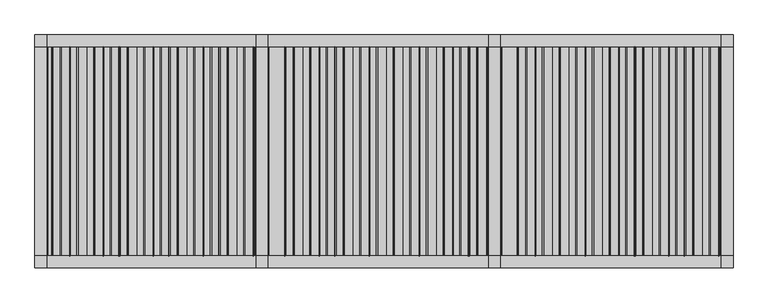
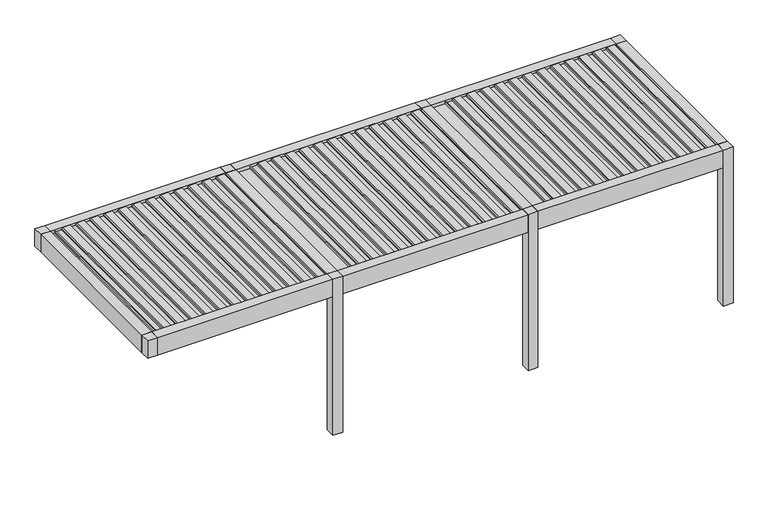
"""IFC4 building model written with IfcOpenShell, lengths in millimetres: proxy geometry, Renson_Amani_Patio_Cover : Renson_Amani_Patio_Cover."""

from ifc_helpers import new_model, si_unit, point, frame, frame_2d, origin, origin_with_axes, place, context, project, spatial, polyline, circle_curve, trimmed, segment, composite_curve, outline, extrude, source, transform, mapped, element, save


def generic_models_91610d27(model_context):
    return source(origin(), model_context, "Body", "SweptSolid", [
        extrude(outline(composite_curve([segment(polyline([(2483.35, 7073.7289238), (2511.01198, 7076.1490335), (2512.3970364, 7104.984284), (2531.8911096, 7101.5469529), (2526.6075693, 6991.549838)]), True, "CONTINUOUS"), segment(trimmed(circle_curve(frame_2d((2511.6248435, 6992.26951)), 15.0), [point((2526.6075693, 6991.549838))], [point((2514.2295662, 6977.4973937))], False, "CARTESIAN"), True, "CONTINUOUS"), segment(polyline([(2514.2295662, 6977.4973937), (2495.0, 6974.1067023), (2495.0, 6886.3709263), (2512.0788237, 6883.3594689), (2511.3450182, 6868.0824984), (2483.35, 6865.6332517), (2483.35, 7073.7289238)]), True, "CONTINUOUS")], self_intersect=False)), frame((0.0, -1350.0, 0.0), z_axis=(0.0, 1.0, 0.0), x_axis=(0.0, 0.0, 1.0)), (0.0, 0.0, 1.0), 2700.0),
        extrude(outline(composite_curve([segment(polyline([(2483.35, 6858.7132078), (2511.01198, 6861.1333174), (2512.3970364, 6889.9685679), (2531.8911096, 6886.5312368), (2526.6075693, 6776.534122)]), True, "CONTINUOUS"), segment(trimmed(circle_curve(frame_2d((2511.6248435, 6777.2537939)), 15.0), [point((2526.6075693, 6776.534122))], [point((2514.2295662, 6762.4816776))], False, "CARTESIAN"), True, "CONTINUOUS"), segment(polyline([(2514.2295662, 6762.4816776), (2495.0, 6759.0909863), (2495.0, 6671.3552102), (2512.0788237, 6668.3437528), (2511.3450182, 6653.0667824), (2483.35, 6650.6175356), (2483.35, 6858.7132078)]), True, "CONTINUOUS")], self_intersect=False)), frame((0.0, -1350.0, 0.0), z_axis=(0.0, 1.0, 0.0), x_axis=(0.0, 0.0, 1.0)), (0.0, 0.0, 1.0), 2700.0),
        extrude(outline(composite_curve([segment(polyline([(2483.35, 6643.6974917), (2511.01198, 6646.1176014), (2512.3970364, 6674.9528519), (2531.8911096, 6671.5155208), (2526.6075693, 6561.5184059)]), True, "CONTINUOUS"), segment(trimmed(circle_curve(frame_2d((2511.6248435, 6562.2380779)), 15.0), [point((2526.6075693, 6561.5184059))], [point((2514.2295662, 6547.4659616))], False, "CARTESIAN"), True, "CONTINUOUS"), segment(polyline([(2514.2295662, 6547.4659616), (2495.0, 6544.0752702), (2495.0, 6456.3394942), (2512.0788237, 6453.3280368), (2511.3450182, 6438.0510663), (2483.35, 6435.6018196), (2483.35, 6643.6974917)]), True, "CONTINUOUS")], self_intersect=False)), frame((0.0, -1350.0, 0.0), z_axis=(0.0, 1.0, 0.0), x_axis=(0.0, 0.0, 1.0)), (0.0, 0.0, 1.0), 2700.0),
        extrude(outline(composite_curve([segment(polyline([(2483.35, 6428.6817757), (2511.01198, 6431.1018854), (2512.3970364, 6459.9371358), (2531.8911096, 6456.4998047), (2526.6075693, 6346.5026899)]), True, "CONTINUOUS"), segment(trimmed(circle_curve(frame_2d((2511.6248435, 6347.2223618)), 15.0), [point((2526.6075693, 6346.5026899))], [point((2514.2295662, 6332.4502455))], False, "CARTESIAN"), True, "CONTINUOUS"), segment(polyline([(2514.2295662, 6332.4502455), (2495.0, 6329.0595542), (2495.0, 6241.3237782), (2512.0788237, 6238.3123207), (2511.3450182, 6223.0353503), (2483.35, 6220.5861035), (2483.35, 6428.6817757)]), True, "CONTINUOUS")], self_intersect=False)), frame((0.0, -1350.0, 0.0), z_axis=(0.0, 1.0, 0.0), x_axis=(0.0, 0.0, 1.0)), (0.0, 0.0, 1.0), 2700.0),
        extrude(outline(composite_curve([segment(polyline([(2483.35, 6213.6660597), (2511.01198, 6216.0861693), (2512.3970364, 6244.9214198), (2531.8911096, 6241.4840887), (2526.6075693, 6131.4869738)]), True, "CONTINUOUS"), segment(trimmed(circle_curve(frame_2d((2511.6248435, 6132.2066458)), 15.0), [point((2526.6075693, 6131.4869738))], [point((2514.2295662, 6117.4345295))], False, "CARTESIAN"), True, "CONTINUOUS"), segment(polyline([(2514.2295662, 6117.4345295), (2495.0, 6114.0438381), (2495.0, 6026.3080621), (2512.0788237, 6023.2966047), (2511.3450182, 6008.0196342), (2483.35, 6005.5703875), (2483.35, 6213.6660597)]), True, "CONTINUOUS")], self_intersect=False)), frame((0.0, -1350.0, 0.0), z_axis=(0.0, 1.0, 0.0), x_axis=(0.0, 0.0, 1.0)), (0.0, 0.0, 1.0), 2700.0),
        extrude(outline(composite_curve([segment(polyline([(2483.35, 5998.6503436), (2511.01198, 6001.0704533), (2512.3970364, 6029.9057037), (2531.8911096, 6026.4683726), (2526.6075693, 5916.4712578)]), True, "CONTINUOUS"), segment(trimmed(circle_curve(frame_2d((2511.6248435, 5917.1909297)), 15.0), [point((2526.6075693, 5916.4712578))], [point((2514.2295662, 5902.4188134))], False, "CARTESIAN"), True, "CONTINUOUS"), segment(polyline([(2514.2295662, 5902.4188134), (2495.0, 5899.0281221), (2495.0, 5811.2923461), (2512.0788237, 5808.2808886), (2511.3450182, 5793.0039182), (2483.35, 5790.5546714), (2483.35, 5998.6503436)]), True, "CONTINUOUS")], self_intersect=False)), frame((0.0, -1350.0, 0.0), z_axis=(0.0, 1.0, 0.0), x_axis=(0.0, 0.0, 1.0)), (0.0, 0.0, 1.0), 2700.0),
        extrude(outline(composite_curve([segment(polyline([(2483.35, 5783.6346276), (2511.01198, 5786.0547372), (2512.3970364, 5814.8899877), (2531.8911096, 5811.4526566), (2526.6075693, 5701.4555418)]), True, "CONTINUOUS"), segment(trimmed(circle_curve(frame_2d((2511.6248435, 5702.1752137)), 15.0), [point((2526.6075693, 5701.4555418))], [point((2514.2295662, 5687.4030974))], False, "CARTESIAN"), True, "CONTINUOUS"), segment(polyline([(2514.2295662, 5687.4030974), (2495.0, 5684.012406), (2495.0, 5596.27663), (2512.0788237, 5593.2651726), (2511.3450182, 5577.9882021), (2483.35, 5575.5389554), (2483.35, 5783.6346276)]), True, "CONTINUOUS")], self_intersect=False)), frame((0.0, -1350.0, 0.0), z_axis=(0.0, 1.0, 0.0), x_axis=(0.0, 0.0, 1.0)), (0.0, 0.0, 1.0), 2700.0),
        extrude(outline(composite_curve([segment(polyline([(2483.35, 5568.6189115), (2511.01198, 5571.0390212), (2512.3970364, 5599.8742716), (2531.8911096, 5596.4369406), (2526.6075693, 5486.4398257)]), True, "CONTINUOUS"), segment(trimmed(circle_curve(frame_2d((2511.6248435, 5487.1594976)), 15.0), [point((2526.6075693, 5486.4398257))], [point((2514.2295662, 5472.3873813))], False, "CARTESIAN"), True, "CONTINUOUS"), segment(polyline([(2514.2295662, 5472.3873813), (2495.0, 5468.99669), (2495.0, 5381.260914), (2512.0788237, 5378.2494566), (2511.3450182, 5362.9724861), (2483.35, 5360.5232394), (2483.35, 5568.6189115)]), True, "CONTINUOUS")], self_intersect=False)), frame((0.0, -1350.0, 0.0), z_axis=(0.0, 1.0, 0.0), x_axis=(0.0, 0.0, 1.0)), (0.0, 0.0, 1.0), 2700.0),
        extrude(outline(composite_curve([segment(polyline([(2483.35, 5353.6031955), (2511.01198, 5356.0233051), (2512.3970364, 5384.8585556), (2531.8911096, 5381.4212245), (2526.6075693, 5271.4241097)]), True, "CONTINUOUS"), segment(trimmed(circle_curve(frame_2d((2511.6248435, 5272.1437816)), 15.0), [point((2526.6075693, 5271.4241097))], [point((2514.2295662, 5257.3716653))], False, "CARTESIAN"), True, "CONTINUOUS"), segment(polyline([(2514.2295662, 5257.3716653), (2495.0, 5253.980974), (2495.0, 5166.2451979), (2512.0788237, 5163.2337405), (2511.3450182, 5147.95677), (2483.35, 5145.5075233), (2483.35, 5353.6031955)]), True, "CONTINUOUS")], self_intersect=False)), frame((0.0, -1350.0, 0.0), z_axis=(0.0, 1.0, 0.0), x_axis=(0.0, 0.0, 1.0)), (0.0, 0.0, 1.0), 2700.0),
        extrude(outline(composite_curve([segment(polyline([(2483.35, 5138.5874794), (2511.01198, 5141.0075891), (2512.3970364, 5169.8428395), (2531.8911096, 5166.4055085), (2526.6075693, 5056.4083936)]), True, "CONTINUOUS"), segment(trimmed(circle_curve(frame_2d((2511.6248435, 5057.1280655)), 15.0), [point((2526.6075693, 5056.4083936))], [point((2514.2295662, 5042.3559492))], False, "CARTESIAN"), True, "CONTINUOUS"), segment(polyline([(2514.2295662, 5042.3559492), (2495.0, 5038.9652579), (2495.0, 4951.2294819), (2512.0788237, 4948.2180245), (2511.3450182, 4932.941054), (2483.35, 4930.4918073), (2483.35, 5138.5874794)]), True, "CONTINUOUS")], self_intersect=False)), frame((0.0, -1350.0, 0.0), z_axis=(0.0, 1.0, 0.0), x_axis=(0.0, 0.0, 1.0)), (0.0, 0.0, 1.0), 2700.0),
        extrude(outline(composite_curve([segment(polyline([(2483.35, 7288.7446399), (2511.01198, 7291.1647495), (2512.3970364, 7320.0), (2531.8911096, 7316.5626689), (2526.6075693, 7206.5655541)]), True, "CONTINUOUS"), segment(trimmed(circle_curve(frame_2d((2511.6248435, 7207.285226)), 15.0), [point((2526.6075693, 7206.5655541))], [point((2514.2295662, 7192.5131097))], False, "CARTESIAN"), True, "CONTINUOUS"), segment(polyline([(2514.2295662, 7192.5131097), (2495.0, 7189.1224184), (2495.0, 7101.3866423), (2512.0788237, 7098.3751849), (2511.3450182, 7083.0982144), (2483.35, 7080.6489677), (2483.35, 7288.7446399)]), True, "CONTINUOUS")], self_intersect=False)), frame((0.0, -1350.0, 0.0), z_axis=(0.0, 1.0, 0.0), x_axis=(0.0, 0.0, 1.0)), (0.0, 0.0, 1.0), 2700.0),
        extrude(outline(composite_curve([segment(polyline([(2483.35, 4923.5717634), (2511.01198, 4925.991873), (2512.3970364, 4954.8271235), (2531.8911096, 4951.3897924), (2526.6075693, 4841.3926776)]), True, "CONTINUOUS"), segment(trimmed(circle_curve(frame_2d((2511.6248435, 4842.1123495)), 15.0), [point((2526.6075693, 4841.3926776))], [point((2514.2295662, 4827.3402332))], False, "CARTESIAN"), True, "CONTINUOUS"), segment(polyline([(2514.2295662, 4827.3402332), (2495.0, 4823.9495419), (2495.0, 4736.2137658), (2512.0788237, 4733.2023084), (2511.3450182, 4717.9253379), (2483.35, 4715.4760912), (2483.35, 4923.5717634)]), True, "CONTINUOUS")], self_intersect=False)), frame((0.0, -1350.0, 0.0), z_axis=(0.0, 1.0, 0.0), x_axis=(0.0, 0.0, 1.0)), (0.0, 0.0, 1.0), 2700.0),
        extrude(outline(composite_curve([segment(polyline([(2483.35, 4073.7289238), (2511.01198, 4076.1490335), (2512.3970364, 4104.984284), (2531.8911096, 4101.5469529), (2526.6075693, 3991.549838)]), True, "CONTINUOUS"), segment(trimmed(circle_curve(frame_2d((2511.6248435, 3992.26951)), 15.0), [point((2526.6075693, 3991.549838))], [point((2514.2295662, 3977.4973937))], False, "CARTESIAN"), True, "CONTINUOUS"), segment(polyline([(2514.2295662, 3977.4973937), (2495.0, 3974.1067023), (2495.0, 3886.3709263), (2512.0788237, 3883.3594689), (2511.3450182, 3868.0824984), (2483.35, 3865.6332517), (2483.35, 4073.7289238)]), True, "CONTINUOUS")], self_intersect=False)), frame((0.0, -1350.0, 0.0), z_axis=(0.0, 1.0, 0.0), x_axis=(0.0, 0.0, 1.0)), (0.0, 0.0, 1.0), 2700.0),
        extrude(outline(composite_curve([segment(polyline([(2483.35, 3858.7132078), (2511.01198, 3861.1333174), (2512.3970364, 3889.9685679), (2531.8911096, 3886.5312368), (2526.6075693, 3776.534122)]), True, "CONTINUOUS"), segment(trimmed(circle_curve(frame_2d((2511.6248435, 3777.2537939)), 15.0), [point((2526.6075693, 3776.534122))], [point((2514.2295662, 3762.4816776))], False, "CARTESIAN"), True, "CONTINUOUS"), segment(polyline([(2514.2295662, 3762.4816776), (2495.0, 3759.0909863), (2495.0, 3671.3552102), (2512.0788237, 3668.3437528), (2511.3450182, 3653.0667824), (2483.35, 3650.6175356), (2483.35, 3858.7132078)]), True, "CONTINUOUS")], self_intersect=False)), frame((0.0, -1350.0, 0.0), z_axis=(0.0, 1.0, 0.0), x_axis=(0.0, 0.0, 1.0)), (0.0, 0.0, 1.0), 2700.0),
        extrude(outline(composite_curve([segment(polyline([(2483.35, 3643.6974917), (2511.01198, 3646.1176014), (2512.3970364, 3674.9528519), (2531.8911096, 3671.5155208), (2526.6075693, 3561.5184059)]), True, "CONTINUOUS"), segment(trimmed(circle_curve(frame_2d((2511.6248435, 3562.2380779)), 15.0), [point((2526.6075693, 3561.5184059))], [point((2514.2295662, 3547.4659616))], False, "CARTESIAN"), True, "CONTINUOUS"), segment(polyline([(2514.2295662, 3547.4659616), (2495.0, 3544.0752702), (2495.0, 3456.3394942), (2512.0788237, 3453.3280368), (2511.3450182, 3438.0510663), (2483.35, 3435.6018196), (2483.35, 3643.6974917)]), True, "CONTINUOUS")], self_intersect=False)), frame((0.0, -1350.0, 0.0), z_axis=(0.0, 1.0, 0.0), x_axis=(0.0, 0.0, 1.0)), (0.0, 0.0, 1.0), 2700.0),
        extrude(outline(composite_curve([segment(polyline([(2483.35, 3428.6817757), (2511.01198, 3431.1018854), (2512.3970364, 3459.9371358), (2531.8911096, 3456.4998047), (2526.6075693, 3346.5026899)]), True, "CONTINUOUS"), segment(trimmed(circle_curve(frame_2d((2511.6248435, 3347.2223618)), 15.0), [point((2526.6075693, 3346.5026899))], [point((2514.2295662, 3332.4502455))], False, "CARTESIAN"), True, "CONTINUOUS"), segment(polyline([(2514.2295662, 3332.4502455), (2495.0, 3329.0595542), (2495.0, 3241.3237782), (2512.0788237, 3238.3123207), (2511.3450182, 3223.0353503), (2483.35, 3220.5861035), (2483.35, 3428.6817757)]), True, "CONTINUOUS")], self_intersect=False)), frame((0.0, -1350.0, 0.0), z_axis=(0.0, 1.0, 0.0), x_axis=(0.0, 0.0, 1.0)), (0.0, 0.0, 1.0), 2700.0),
        extrude(outline(composite_curve([segment(polyline([(2483.35, 3213.6660597), (2511.01198, 3216.0861693), (2512.3970364, 3244.9214198), (2531.8911096, 3241.4840887), (2526.6075693, 3131.4869738)]), True, "CONTINUOUS"), segment(trimmed(circle_curve(frame_2d((2511.6248435, 3132.2066458)), 15.0), [point((2526.6075693, 3131.4869738))], [point((2514.2295662, 3117.4345295))], False, "CARTESIAN"), True, "CONTINUOUS"), segment(polyline([(2514.2295662, 3117.4345295), (2495.0, 3114.0438381), (2495.0, 3026.3080621), (2512.0788237, 3023.2966047), (2511.3450182, 3008.0196342), (2483.35, 3005.5703875), (2483.35, 3213.6660597)]), True, "CONTINUOUS")], self_intersect=False)), frame((0.0, -1350.0, 0.0), z_axis=(0.0, 1.0, 0.0), x_axis=(0.0, 0.0, 1.0)), (0.0, 0.0, 1.0), 2700.0),
        extrude(outline(composite_curve([segment(polyline([(2483.35, 2998.6503436), (2511.01198, 3001.0704533), (2512.3970364, 3029.9057037), (2531.8911096, 3026.4683726), (2526.6075693, 2916.4712578)]), True, "CONTINUOUS"), segment(trimmed(circle_curve(frame_2d((2511.6248435, 2917.1909297)), 15.0), [point((2526.6075693, 2916.4712578))], [point((2514.2295662, 2902.4188134))], False, "CARTESIAN"), True, "CONTINUOUS"), segment(polyline([(2514.2295662, 2902.4188134), (2495.0, 2899.0281221), (2495.0, 2811.2923461), (2512.0788237, 2808.2808886), (2511.3450182, 2793.0039182), (2483.35, 2790.5546714), (2483.35, 2998.6503436)]), True, "CONTINUOUS")], self_intersect=False)), frame((0.0, -1350.0, 0.0), z_axis=(0.0, 1.0, 0.0), x_axis=(0.0, 0.0, 1.0)), (0.0, 0.0, 1.0), 2700.0),
        extrude(outline(composite_curve([segment(polyline([(2483.35, 2783.6346276), (2511.01198, 2786.0547372), (2512.3970364, 2814.8899877), (2531.8911096, 2811.4526566), (2526.6075693, 2701.4555418)]), True, "CONTINUOUS"), segment(trimmed(circle_curve(frame_2d((2511.6248435, 2702.1752137)), 15.0), [point((2526.6075693, 2701.4555418))], [point((2514.2295662, 2687.4030974))], False, "CARTESIAN"), True, "CONTINUOUS"), segment(polyline([(2514.2295662, 2687.4030974), (2495.0, 2684.012406), (2495.0, 2596.27663), (2512.0788237, 2593.2651726), (2511.3450182, 2577.9882021), (2483.35, 2575.5389554), (2483.35, 2783.6346276)]), True, "CONTINUOUS")], self_intersect=False)), frame((0.0, -1350.0, 0.0), z_axis=(0.0, 1.0, 0.0), x_axis=(0.0, 0.0, 1.0)), (0.0, 0.0, 1.0), 2700.0),
        extrude(outline(composite_curve([segment(polyline([(2483.35, 2568.6189115), (2511.01198, 2571.0390212), (2512.3970364, 2599.8742716), (2531.8911096, 2596.4369406), (2526.6075693, 2486.4398257)]), True, "CONTINUOUS"), segment(trimmed(circle_curve(frame_2d((2511.6248435, 2487.1594976)), 15.0), [point((2526.6075693, 2486.4398257))], [point((2514.2295662, 2472.3873813))], False, "CARTESIAN"), True, "CONTINUOUS"), segment(polyline([(2514.2295662, 2472.3873813), (2495.0, 2468.99669), (2495.0, 2381.260914), (2512.0788237, 2378.2494566), (2511.3450182, 2362.9724861), (2483.35, 2360.5232394), (2483.35, 2568.6189115)]), True, "CONTINUOUS")], self_intersect=False)), frame((0.0, -1350.0, 0.0), z_axis=(0.0, 1.0, 0.0), x_axis=(0.0, 0.0, 1.0)), (0.0, 0.0, 1.0), 2700.0),
        extrude(outline(composite_curve([segment(polyline([(2483.35, 2353.6031955), (2511.01198, 2356.0233051), (2512.3970364, 2384.8585556), (2531.8911096, 2381.4212245), (2526.6075693, 2271.4241097)]), True, "CONTINUOUS"), segment(trimmed(circle_curve(frame_2d((2511.6248435, 2272.1437816)), 15.0), [point((2526.6075693, 2271.4241097))], [point((2514.2295662, 2257.3716653))], False, "CARTESIAN"), True, "CONTINUOUS"), segment(polyline([(2514.2295662, 2257.3716653), (2495.0, 2253.980974), (2495.0, 2166.2451979), (2512.0788237, 2163.2337405), (2511.3450182, 2147.95677), (2483.35, 2145.5075233), (2483.35, 2353.6031955)]), True, "CONTINUOUS")], self_intersect=False)), frame((0.0, -1350.0, 0.0), z_axis=(0.0, 1.0, 0.0), x_axis=(0.0, 0.0, 1.0)), (0.0, 0.0, 1.0), 2700.0),
        extrude(outline(composite_curve([segment(polyline([(2483.35, 2138.5874794), (2511.01198, 2141.0075891), (2512.3970364, 2169.8428395), (2531.8911096, 2166.4055085), (2526.6075693, 2056.4083936)]), True, "CONTINUOUS"), segment(trimmed(circle_curve(frame_2d((2511.6248435, 2057.1280655)), 15.0), [point((2526.6075693, 2056.4083936))], [point((2514.2295662, 2042.3559492))], False, "CARTESIAN"), True, "CONTINUOUS"), segment(polyline([(2514.2295662, 2042.3559492), (2495.0, 2038.9652579), (2495.0, 1951.2294819), (2512.0788237, 1948.2180245), (2511.3450182, 1932.941054), (2483.35, 1930.4918073), (2483.35, 2138.5874794)]), True, "CONTINUOUS")], self_intersect=False)), frame((0.0, -1350.0, 0.0), z_axis=(0.0, 1.0, 0.0), x_axis=(0.0, 0.0, 1.0)), (0.0, 0.0, 1.0), 2700.0),
        extrude(outline(composite_curve([segment(polyline([(2483.35, 4288.7446399), (2511.01198, 4291.1647495), (2512.3970364, 4320.0), (2531.8911096, 4316.5626689), (2526.6075693, 4206.5655541)]), True, "CONTINUOUS"), segment(trimmed(circle_curve(frame_2d((2511.6248435, 4207.285226)), 15.0), [point((2526.6075693, 4206.5655541))], [point((2514.2295662, 4192.5131097))], False, "CARTESIAN"), True, "CONTINUOUS"), segment(polyline([(2514.2295662, 4192.5131097), (2495.0, 4189.1224184), (2495.0, 4101.3866423), (2512.0788237, 4098.3751849), (2511.3450182, 4083.0982144), (2483.35, 4080.6489677), (2483.35, 4288.7446399)]), True, "CONTINUOUS")], self_intersect=False)), frame((0.0, -1350.0, 0.0), z_axis=(0.0, 1.0, 0.0), x_axis=(0.0, 0.0, 1.0)), (0.0, 0.0, 1.0), 2700.0),
        extrude(outline(composite_curve([segment(polyline([(2483.35, 1923.5717634), (2511.01198, 1925.991873), (2512.3970364, 1954.8271235), (2531.8911096, 1951.3897924), (2526.6075693, 1841.3926776)]), True, "CONTINUOUS"), segment(trimmed(circle_curve(frame_2d((2511.6248435, 1842.1123495)), 15.0), [point((2526.6075693, 1841.3926776))], [point((2514.2295662, 1827.3402332))], False, "CARTESIAN"), True, "CONTINUOUS"), segment(polyline([(2514.2295662, 1827.3402332), (2495.0, 1823.9495419), (2495.0, 1736.2137658), (2512.0788237, 1733.2023084), (2511.3450182, 1717.9253379), (2483.35, 1715.4760912), (2483.35, 1923.5717634)]), True, "CONTINUOUS")], self_intersect=False)), frame((0.0, -1350.0, 0.0), z_axis=(0.0, 1.0, 0.0), x_axis=(0.0, 0.0, 1.0)), (0.0, 0.0, 1.0), 2700.0),
        extrude(outline(composite_curve([segment(polyline([(2483.35, 1073.7289238), (2511.01198, 1076.1490335), (2512.3970364, 1104.984284), (2531.8911096, 1101.5469529), (2526.6075693, 991.549838)]), True, "CONTINUOUS"), segment(trimmed(circle_curve(frame_2d((2511.6248435, 992.26951)), 15.0), [point((2526.6075693, 991.549838))], [point((2514.2295662, 977.4973937))], False, "CARTESIAN"), True, "CONTINUOUS"), segment(polyline([(2514.2295662, 977.4973937), (2495.0, 974.1067023), (2495.0, 886.3709263), (2512.0788237, 883.3594689), (2511.3450182, 868.0824984), (2483.35, 865.6332517), (2483.35, 1073.7289238)]), True, "CONTINUOUS")], self_intersect=False)), frame((0.0, -1350.0, 0.0), z_axis=(0.0, 1.0, 0.0), x_axis=(0.0, 0.0, 1.0)), (0.0, 0.0, 1.0), 2700.0),
        extrude(outline(composite_curve([segment(polyline([(2483.35, 858.7132078), (2511.01198, 861.1333174), (2512.3970364, 889.9685679), (2531.8911096, 886.5312368), (2526.6075693, 776.534122)]), True, "CONTINUOUS"), segment(trimmed(circle_curve(frame_2d((2511.6248435, 777.2537939)), 15.0), [point((2526.6075693, 776.534122))], [point((2514.2295662, 762.4816776))], False, "CARTESIAN"), True, "CONTINUOUS"), segment(polyline([(2514.2295662, 762.4816776), (2495.0, 759.0909863), (2495.0, 671.3552102), (2512.0788237, 668.3437528), (2511.3450182, 653.0667824), (2483.35, 650.6175356), (2483.35, 858.7132078)]), True, "CONTINUOUS")], self_intersect=False)), frame((0.0, -1350.0, 0.0), z_axis=(0.0, 1.0, 0.0), x_axis=(0.0, 0.0, 1.0)), (0.0, 0.0, 1.0), 2700.0),
        extrude(outline(composite_curve([segment(polyline([(2483.35, 643.6974917), (2511.01198, 646.1176014), (2512.3970364, 674.9528519), (2531.8911096, 671.5155208), (2526.6075693, 561.5184059)]), True, "CONTINUOUS"), segment(trimmed(circle_curve(frame_2d((2511.6248435, 562.2380779)), 15.0), [point((2526.6075693, 561.5184059))], [point((2514.2295662, 547.4659616))], False, "CARTESIAN"), True, "CONTINUOUS"), segment(polyline([(2514.2295662, 547.4659616), (2495.0, 544.0752702), (2495.0, 456.3394942), (2512.0788237, 453.3280368), (2511.3450182, 438.0510663), (2483.35, 435.6018196), (2483.35, 643.6974917)]), True, "CONTINUOUS")], self_intersect=False)), frame((0.0, -1350.0, 0.0), z_axis=(0.0, 1.0, 0.0), x_axis=(0.0, 0.0, 1.0)), (0.0, 0.0, 1.0), 2700.0),
        extrude(outline(composite_curve([segment(polyline([(2483.35, 428.6817757), (2511.01198, 431.1018854), (2512.3970364, 459.9371358), (2531.8911096, 456.4998047), (2526.6075693, 346.5026899)]), True, "CONTINUOUS"), segment(trimmed(circle_curve(frame_2d((2511.6248435, 347.2223618)), 15.0), [point((2526.6075693, 346.5026899))], [point((2514.2295662, 332.4502455))], False, "CARTESIAN"), True, "CONTINUOUS"), segment(polyline([(2514.2295662, 332.4502455), (2495.0, 329.0595542), (2495.0, 241.3237782), (2512.0788237, 238.3123207), (2511.3450182, 223.0353503), (2483.35, 220.5861035), (2483.35, 428.6817757)]), True, "CONTINUOUS")], self_intersect=False)), frame((0.0, -1350.0, 0.0), z_axis=(0.0, 1.0, 0.0), x_axis=(0.0, 0.0, 1.0)), (0.0, 0.0, 1.0), 2700.0),
        extrude(outline(composite_curve([segment(polyline([(2483.35, 213.6660597), (2511.01198, 216.0861693), (2512.3970364, 244.9214198), (2531.8911096, 241.4840887), (2526.6075693, 131.4869738)]), True, "CONTINUOUS"), segment(trimmed(circle_curve(frame_2d((2511.6248435, 132.2066458)), 15.0), [point((2526.6075693, 131.4869738))], [point((2514.2295662, 117.4345295))], False, "CARTESIAN"), True, "CONTINUOUS"), segment(polyline([(2514.2295662, 117.4345295), (2495.0, 114.0438381), (2495.0, 26.3080621), (2512.0788237, 23.2966047), (2511.3450182, 8.0196342), (2483.35, 5.5703875), (2483.35, 213.6660597)]), True, "CONTINUOUS")], self_intersect=False)), frame((0.0, -1350.0, 0.0), z_axis=(0.0, 1.0, 0.0), x_axis=(0.0, 0.0, 1.0)), (0.0, 0.0, 1.0), 2700.0),
        extrude(outline(composite_curve([segment(polyline([(2483.35, -1.3496564), (2511.01198, 1.0704533), (2512.3970364, 29.9057037), (2531.8911096, 26.4683726), (2526.6075693, -83.5287422)]), True, "CONTINUOUS"), segment(trimmed(circle_curve(frame_2d((2511.6248435, -82.8090703)), 15.0), [point((2526.6075693, -83.5287422))], [point((2514.2295662, -97.5811866))], False, "CARTESIAN"), True, "CONTINUOUS"), segment(polyline([(2514.2295662, -97.5811866), (2495.0, -100.9718779), (2495.0, -188.7076539), (2512.0788237, -191.7191114), (2511.3450182, -206.9960818), (2483.35, -209.4453286), (2483.35, -1.3496564)]), True, "CONTINUOUS")], self_intersect=False)), frame((0.0, -1350.0, 0.0), z_axis=(0.0, 1.0, 0.0), x_axis=(0.0, 0.0, 1.0)), (0.0, 0.0, 1.0), 2700.0),
        extrude(outline(composite_curve([segment(polyline([(2483.35, -216.3653724), (2511.01198, -213.9452628), (2512.3970364, -185.1100123), (2531.8911096, -188.5473434), (2526.6075693, -298.5444582)]), True, "CONTINUOUS"), segment(trimmed(circle_curve(frame_2d((2511.6248435, -297.8247863)), 15.0), [point((2526.6075693, -298.5444582))], [point((2514.2295662, -312.5969026))], False, "CARTESIAN"), True, "CONTINUOUS"), segment(polyline([(2514.2295662, -312.5969026), (2495.0, -315.987594), (2495.0, -403.72337), (2512.0788237, -406.7348274), (2511.3450182, -422.0117979), (2483.35, -424.4610446), (2483.35, -216.3653724)]), True, "CONTINUOUS")], self_intersect=False)), frame((0.0, -1350.0, 0.0), z_axis=(0.0, 1.0, 0.0), x_axis=(0.0, 0.0, 1.0)), (0.0, 0.0, 1.0), 2700.0),
        extrude(outline(composite_curve([segment(polyline([(2483.35, -431.3810885), (2511.01198, -428.9609788), (2512.3970364, -400.1257284), (2531.8911096, -403.5630594), (2526.6075693, -513.5601743)]), True, "CONTINUOUS"), segment(trimmed(circle_curve(frame_2d((2511.6248435, -512.8405024)), 15.0), [point((2526.6075693, -513.5601743))], [point((2514.2295662, -527.6126187))], False, "CARTESIAN"), True, "CONTINUOUS"), segment(polyline([(2514.2295662, -527.6126187), (2495.0, -531.00331), (2495.0, -618.739086), (2512.0788237, -621.7505434), (2511.3450182, -637.0275139), (2483.35, -639.4767606), (2483.35, -431.3810885)]), True, "CONTINUOUS")], self_intersect=False)), frame((0.0, -1350.0, 0.0), z_axis=(0.0, 1.0, 0.0), x_axis=(0.0, 0.0, 1.0)), (0.0, 0.0, 1.0), 2700.0),
        extrude(outline(composite_curve([segment(polyline([(2483.35, -646.3968045), (2511.01198, -643.9766949), (2512.3970364, -615.1414444), (2531.8911096, -618.5787755), (2526.6075693, -728.5758903)]), True, "CONTINUOUS"), segment(trimmed(circle_curve(frame_2d((2511.6248435, -727.8562184)), 15.0), [point((2526.6075693, -728.5758903))], [point((2514.2295662, -742.6283347))], False, "CARTESIAN"), True, "CONTINUOUS"), segment(polyline([(2514.2295662, -742.6283347), (2495.0, -746.019026), (2495.0, -833.7548021), (2512.0788237, -836.7662595), (2511.3450182, -852.04323), (2483.35, -854.4924767), (2483.35, -646.3968045)]), True, "CONTINUOUS")], self_intersect=False)), frame((0.0, -1350.0, 0.0), z_axis=(0.0, 1.0, 0.0), x_axis=(0.0, 0.0, 1.0)), (0.0, 0.0, 1.0), 2700.0),
        extrude(outline(composite_curve([segment(polyline([(2483.35, -861.4125206), (2511.01198, -858.9924109), (2512.3970364, -830.1571605), (2531.8911096, -833.5944915), (2526.6075693, -943.5916064)]), True, "CONTINUOUS"), segment(trimmed(circle_curve(frame_2d((2511.6248435, -942.8719345)), 15.0), [point((2526.6075693, -943.5916064))], [point((2514.2295662, -957.6440508))], False, "CARTESIAN"), True, "CONTINUOUS"), segment(polyline([(2514.2295662, -957.6440508), (2495.0, -961.0347421), (2495.0, -1048.7705181), (2512.0788237, -1051.7819755), (2511.3450182, -1067.058946), (2483.35, -1069.5081927), (2483.35, -861.4125206)]), True, "CONTINUOUS")], self_intersect=False)), frame((0.0, -1350.0, 0.0), z_axis=(0.0, 1.0, 0.0), x_axis=(0.0, 0.0, 1.0)), (0.0, 0.0, 1.0), 2700.0),
        extrude(outline(composite_curve([segment(polyline([(2483.35, 1288.7446399), (2511.01198, 1291.1647495), (2512.3970364, 1320.0), (2531.8911096, 1316.5626689), (2526.6075693, 1206.5655541)]), True, "CONTINUOUS"), segment(trimmed(circle_curve(frame_2d((2511.6248435, 1207.285226)), 15.0), [point((2526.6075693, 1206.5655541))], [point((2514.2295662, 1192.5131097))], False, "CARTESIAN"), True, "CONTINUOUS"), segment(polyline([(2514.2295662, 1192.5131097), (2495.0, 1189.1224184), (2495.0, 1101.3866423), (2512.0788237, 1098.3751849), (2511.3450182, 1083.0982144), (2483.35, 1080.6489677), (2483.35, 1288.7446399)]), True, "CONTINUOUS")], self_intersect=False)), frame((0.0, -1350.0, 0.0), z_axis=(0.0, 1.0, 0.0), x_axis=(0.0, 0.0, 1.0)), (0.0, 0.0, 1.0), 2700.0),
        extrude(outline(composite_curve([segment(polyline([(2483.35, -1076.4282366), (2511.01198, -1074.008127), (2512.3970364, -1045.1728765), (2531.8911096, -1048.6102076), (2526.6075693, -1158.6073224)]), True, "CONTINUOUS"), segment(trimmed(circle_curve(frame_2d((2511.6248435, -1157.8876505)), 15.0), [point((2526.6075693, -1158.6073224))], [point((2514.2295662, -1172.6597668))], False, "CARTESIAN"), True, "CONTINUOUS"), segment(polyline([(2514.2295662, -1172.6597668), (2495.0, -1176.0504581), (2495.0, -1263.7862342), (2512.0788237, -1266.7976916), (2511.3450182, -1282.0746621), (2483.35, -1284.5239088), (2483.35, -1076.4282366)]), True, "CONTINUOUS")], self_intersect=False)), frame((0.0, -1350.0, 0.0), z_axis=(0.0, 1.0, 0.0), x_axis=(0.0, 0.0, 1.0)), (0.0, 0.0, 1.0), 2700.0),
        extrude(outline(polyline([(7500.0, -1350.0), (7500.0, -1500.0), (7350.0, -1500.0), (7350.0, -1350.0), (7500.0, -1350.0)])), origin_with_axes(), (0.0, 0.0, 1.0), 2535.0),
        extrude(outline(polyline([(7500.0, 1500.0), (7500.0, 1350.0), (7350.0, 1350.0), (7350.0, 1500.0), (7500.0, 1500.0)])), frame((0.0, 0.0, 2250.0), z_axis=(0.0, 0.0, 1.0), x_axis=(1.0, 0.0, 0.0)), (0.0, 0.0, 1.0), 285.0),
        extrude(outline(polyline([(4500.0, 1350.0), (4350.0, 1350.0), (4350.0, 1500.0), (4500.0, 1500.0), (4500.0, 1350.0)])), frame((0.0, 0.0, 2250.0), z_axis=(0.0, 0.0, 1.0), x_axis=(1.0, 0.0, 0.0)), (0.0, 0.0, 1.0), 285.0),
        extrude(outline(polyline([(1500.0, 1500.0), (1500.0, 1350.0), (1350.0, 1350.0), (1350.0, 1500.0), (1500.0, 1500.0)])), frame((0.0, 0.0, 2250.0), z_axis=(0.0, 0.0, 1.0), x_axis=(1.0, 0.0, 0.0)), (0.0, 0.0, 1.0), 285.0),
        extrude(outline(polyline([(-1350.0, 1500.0), (-1350.0, 1350.0), (-1500.0, 1350.0), (-1500.0, 1500.0), (-1350.0, 1500.0)])), frame((0.0, 0.0, 2250.0), z_axis=(0.0, 0.0, 1.0), x_axis=(1.0, 0.0, 0.0)), (0.0, 0.0, 1.0), 285.0),
        extrude(outline(polyline([(-1350.0, -1500.0), (-1500.0, -1500.0), (-1500.0, -1350.0), (-1350.0, -1350.0), (-1350.0, -1500.0)])), frame((0.0, 0.0, 2250.0), z_axis=(0.0, 0.0, 1.0), x_axis=(1.0, 0.0, 0.0)), (0.0, 0.0, 1.0), 285.0),
        extrude(outline(polyline([(4500.0, -1350.0), (4500.0, -1500.0), (4350.0, -1500.0), (4350.0, -1350.0), (4500.0, -1350.0)])), origin_with_axes(), (0.0, 0.0, 1.0), 2535.0),
        extrude(outline(polyline([(1500.0, -1350.0), (1500.0, -1500.0), (1350.0, -1500.0), (1350.0, -1350.0), (1500.0, -1350.0)])), origin_with_axes(), (0.0, 0.0, 1.0), 2535.0),
        extrude(outline(polyline([(2466.6559373, 4500.0), (2466.6559373, 4710.0), (2480.6555802, 4713.7512887), (2480.6555802, 4520.4059055), (2496.400763, 4505.0), (2504.2449277, 4505.0), (2504.6823598, 4500.0), (2466.6559373, 4500.0)])), frame((0.0, -1350.0, 0.0), z_axis=(0.0, 1.0, 0.0), x_axis=(0.0, 0.0, 1.0)), (0.0, 0.0, 1.0), 2700.0),
        extrude(outline(polyline([(-1350.0, 2535.0), (-1350.0, 2322.0), (-1280.0000001, 2322.0), (-1280.0000001, 2250.0), (-1500.0, 2250.0), (-1500.0, 2535.0), (-1350.0, 2535.0)])), frame((4500.0, 0.0, 0.0), z_axis=(1.0, 0.0, 0.0), x_axis=(0.0, 1.0, 0.0)), (0.0, 0.0, 1.0), 2850.0),
        extrude(outline(polyline([(1500.0, 2250.0), (1280.0000001, 2250.0), (1280.0000001, 2322.0), (1350.0, 2322.0), (1350.0, 2535.0), (1500.0, 2535.0), (1500.0, 2250.0)])), frame((4500.0, 0.0, 0.0), z_axis=(1.0, 0.0, 0.0), x_axis=(0.0, 1.0, 0.0)), (0.0, 0.0, 1.0), 2850.0),
        extrude(outline(polyline([(2535.0, 7500.0), (2535.0, 7350.0), (2504.6823598, 7350.0), (2504.2449277, 7345.0), (2496.400763, 7345.0), (2480.6555802, 7329.2544156), (2480.6555802, 7319.9090324), (2466.6559373, 7323.6603211), (2466.6559373, 7350.0), (2250.0, 7350.0), (2250.0, 7500.0), (2535.0, 7500.0)])), frame((0.0, -1350.0, 0.0), z_axis=(0.0, 1.0, 0.0), x_axis=(0.0, 0.0, 1.0)), (0.0, 0.0, 1.0), 2700.0),
        extrude(outline(polyline([(2466.6559373, 1500.0), (2466.6559373, 1710.0), (2480.6555802, 1713.7512887), (2480.6555802, 1520.4059055), (2496.400763, 1505.0), (2504.2449277, 1505.0), (2504.6823598, 1500.0), (2466.6559373, 1500.0)])), frame((0.0, -1350.0, 0.0), z_axis=(0.0, 1.0, 0.0), x_axis=(0.0, 0.0, 1.0)), (0.0, 0.0, 1.0), 2700.0),
        extrude(outline(polyline([(-1350.0, 2535.0), (-1350.0, 2322.0), (-1280.0000001, 2322.0), (-1280.0000001, 2250.0), (-1500.0, 2250.0), (-1500.0, 2535.0), (-1350.0, 2535.0)])), frame((1500.0, 0.0, 0.0), z_axis=(1.0, 0.0, 0.0), x_axis=(0.0, 1.0, 0.0)), (0.0, 0.0, 1.0), 2850.0),
        extrude(outline(polyline([(1500.0, 2250.0), (1280.0000001, 2250.0), (1280.0000001, 2322.0), (1350.0, 2322.0), (1350.0, 2535.0), (1500.0, 2535.0), (1500.0, 2250.0)])), frame((1500.0, 0.0, 0.0), z_axis=(1.0, 0.0, 0.0), x_axis=(0.0, 1.0, 0.0)), (0.0, 0.0, 1.0), 2850.0),
        extrude(outline(polyline([(2535.0, 4500.0), (2535.0, 4350.0), (2504.6823598, 4350.0), (2504.2449277, 4345.0), (2496.400763, 4345.0), (2480.6555802, 4329.2544156), (2480.6555802, 4319.9090324), (2466.6559373, 4323.6603211), (2466.6559373, 4350.0), (2250.0, 4350.0), (2250.0, 4500.0), (2535.0, 4500.0)])), frame((0.0, -1350.0, 0.0), z_axis=(0.0, 1.0, 0.0), x_axis=(0.0, 0.0, 1.0)), (0.0, 0.0, 1.0), 2700.0),
        extrude(outline(polyline([(2466.6559373, -1350.0), (2466.6559373, -1290.0), (2480.6555802, -1286.2487113), (2480.6555802, -1329.5940945), (2496.400763, -1345.0), (2504.2449277, -1345.0), (2504.6823598, -1350.0), (2466.6559373, -1350.0)])), frame((0.0, -1350.0, 0.0), z_axis=(0.0, 1.0, 0.0), x_axis=(0.0, 0.0, 1.0)), (0.0, 0.0, 1.0), 2700.0),
        extrude(outline(polyline([(-1350.0, -1350.0), (-1500.0, -1350.0), (-1500.0, 1350.0), (-1350.0, 1350.0), (-1350.0, -1350.0)])), frame((0.0, 0.0, 2250.0), z_axis=(0.0, 0.0, 1.0), x_axis=(1.0, 0.0, 0.0)), (0.0, 0.0, 1.0), 285.0),
        extrude(outline(polyline([(2535.0, 1500.0), (2535.0, 1350.0), (2504.6904658, 1350.0), (2504.2449277, 1345.0), (2496.400763, 1345.0), (2480.6555802, 1329.2544156), (2480.6555802, 1319.9090324), (2466.6559373, 1323.6603211), (2466.6559373, 1350.0), (2250.0, 1350.0), (2250.0, 1500.0), (2535.0, 1500.0)])), frame((0.0, -1350.0, 0.0), z_axis=(0.0, 1.0, 0.0), x_axis=(0.0, 0.0, 1.0)), (0.0, 0.0, 1.0), 2700.0),
        extrude(outline(polyline([(-1350.0, 2535.0), (-1350.0, 2322.0), (-1280.0000001, 2322.0), (-1280.0000001, 2250.0), (-1500.0, 2250.0), (-1500.0, 2535.0), (-1350.0, 2535.0)])), frame((-1350.0, 0.0, 0.0), z_axis=(1.0, 0.0, 0.0), x_axis=(0.0, 1.0, 0.0)), (0.0, 0.0, 1.0), 2700.0),
        extrude(outline(polyline([(1500.0, 2250.0), (1280.0000001, 2250.0), (1280.0000001, 2322.0), (1350.0, 2322.0), (1350.0, 2535.0), (1500.0, 2535.0), (1500.0, 2250.0)])), frame((-1350.0, 0.0, 0.0), z_axis=(1.0, 0.0, 0.0), x_axis=(0.0, 1.0, 0.0)), (0.0, 0.0, 1.0), 2700.0),
    ])


if __name__ == "__main__":
    model = new_model("IFC4")
    model_context = context("Model", 3, world=origin())
    ifc_project = project(units=[si_unit("LENGTHUNIT", "METRE", prefix="MILLI")], contexts=[model_context])
    site = spatial("IfcSite", under=ifc_project)
    building = spatial("IfcBuilding", under=site)
    placement = place(None, origin())
    generic_models_shape = generic_models_91610d27(model_context)
    element("IfcBuildingElementProxy", 1, Name="Renson_Amani_Patio_Cover : Renson_Amani_Patio_Cover", ObjectType="Renson_Amani_Patio_Cover : Renson_Amani_Patio_Cover", at=placement, inside=building, context=model_context, shape_type="MappedRepresentation", body=[
        mapped(generic_models_shape, transform((0.0, 0.0, 0.0), x_axis=(1.0, 0.0, 0.0), y_axis=(0.0, 1.0, 0.0), z_axis=(0.0, 0.0, 1.0))),
    ])
    save(model, "model.ifc")
